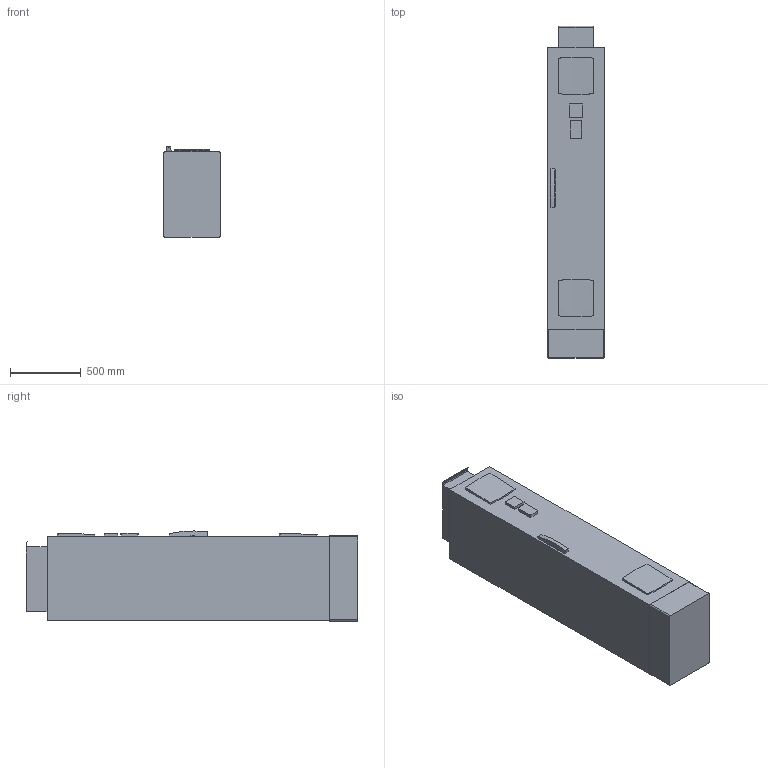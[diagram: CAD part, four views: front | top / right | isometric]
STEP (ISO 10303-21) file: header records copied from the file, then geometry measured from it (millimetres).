
FILE_DESCRIPTION(('STEP AP242'),'1');
FILE_NAME('atv650c11n4f.stp','2020-10-21T06:53:33',('TraceParts'),('TraceParts S.A.'),'Spatial InterOp 3D',' ',' ');
FILE_SCHEMA(('AP242_MANAGED_MODEL_BASED_3D_ENGINEERING_MIM_LF {1 0 10303 442 1 1 4}'));
Length unit declared in the file: millimetre
Products named in the file (1): atv650c11n4f_1
Bounding box: 400 x 2352.5 x 639.28 mm (x, y, z)
Volume: 548641044.5 mm3; surface area: 5667565.1 mm2
Topology: 2 solids, 2 shells, 59 faces, 150 edges, 100 vertices
Faces by surface type: plane 41, cylinder 11, bspline 4, revolution 3
Entity records: 2123 total; most frequent: CARTESIAN_POINT 719, ORIENTED_EDGE 300, DIRECTION 251, EDGE_CURVE 150, VERTEX_POINT 100, LINE 100, VECTOR 100, AXIS2_PLACEMENT_3D 74
